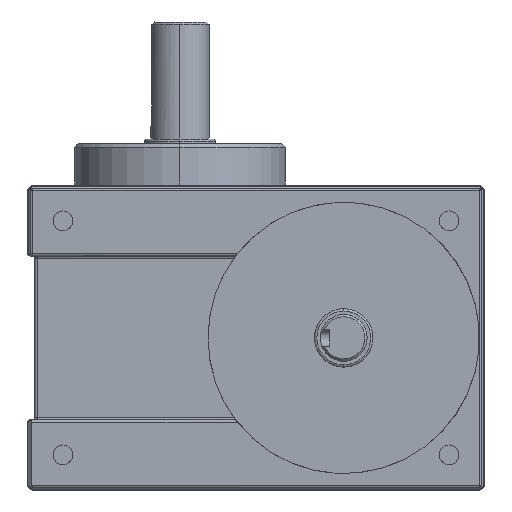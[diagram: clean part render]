
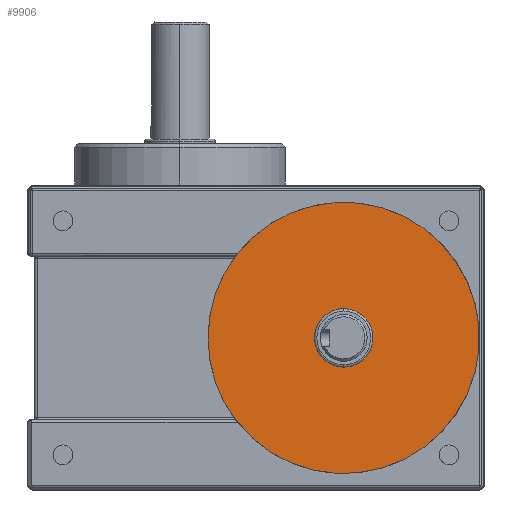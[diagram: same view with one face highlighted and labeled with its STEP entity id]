
A CAD part, left-side view. The second image highlights one B-rep face of the part: STEP entity #9906.
In plain terms, the highlighted planar face has unit normal (-1, 0, 0).
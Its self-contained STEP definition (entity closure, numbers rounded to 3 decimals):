
#3281=CARTESIAN_POINT('',(-63.5,-37.5,-65.));
#3282=DIRECTION('',(-1.,0.,0.));
#3283=DIRECTION('',(0.,0.797,-0.603));
#3284=AXIS2_PLACEMENT_3D('',#3281,#3282,#3283);
#3805=CARTESIAN_POINT('',(-63.5,-37.5,-65.));
#3806=DIRECTION('',(-1.,0.,0.));
#3807=DIRECTION('',(0.,0.,1.));
#3808=AXIS2_PLACEMENT_3D('',#3805,#3806,#3807);
#3810=CARTESIAN_POINT('',(-63.5,-37.5,-65.));
#3811=DIRECTION('',(-1.,0.,0.));
#3812=DIRECTION('',(0.,0.,-1.));
#3813=AXIS2_PLACEMENT_3D('',#3810,#3811,#3812);
#3815=CARTESIAN_POINT('',(-63.5,-37.5,-65.));
#3816=DIRECTION('',(-1.,0.,0.));
#3817=DIRECTION('',(0.,0.797,0.603));
#3818=AXIS2_PLACEMENT_3D('',#3815,#3816,#3817);
#4781=CARTESIAN_POINT('',(-63.5,-37.5,-52.5));
#4782=CARTESIAN_POINT('',(-63.5,-37.5,-77.5));
#4783=VERTEX_POINT('',#4781);
#4784=VERTEX_POINT('',#4782);
#4817=CARTESIAN_POINT('',(-63.5,8.749,-30.));
#4818=CARTESIAN_POINT('',(-63.5,8.749,-100.));
#4819=VERTEX_POINT('',#4817);
#4820=VERTEX_POINT('',#4818);
#9891=CARTESIAN_POINT('',(-63.5,0.,0.));
#9892=DIRECTION('',(-1.,0.,0.));
#9893=DIRECTION('',(0.,0.,1.));
#9894=AXIS2_PLACEMENT_3D('',#9891,#9892,#9893);
#9895=PLANE('',#9894);
#9896=ORIENTED_EDGE('',*,*,#9000,.F.);
#9897=ORIENTED_EDGE('',*,*,#9727,.F.);
#9898=EDGE_LOOP('',(#9896,#9897));
#9899=FACE_OUTER_BOUND('',#9898,.F.);
#9901=ORIENTED_EDGE('',*,*,#9900,.T.);
#9903=ORIENTED_EDGE('',*,*,#9902,.T.);
#9904=EDGE_LOOP('',(#9901,#9903));
#9905=FACE_BOUND('',#9904,.F.);
#3285=CIRCLE('',#3284,58.);
#3809=CIRCLE('',#3808,12.5);
#3814=CIRCLE('',#3813,12.5);
#3819=CIRCLE('',#3818,58.);
#9000=EDGE_CURVE('',#4820,#4819,#3285,.T.);
#9727=EDGE_CURVE('',#4819,#4820,#3819,.T.);
#9900=EDGE_CURVE('',#4783,#4784,#3809,.T.);
#9902=EDGE_CURVE('',#4784,#4783,#3814,.T.);
#9906=ADVANCED_FACE('',(#9899,#9905),#9895,.T.);
